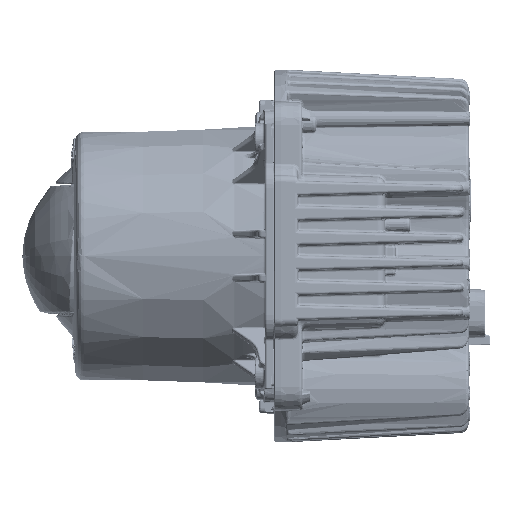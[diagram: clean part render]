
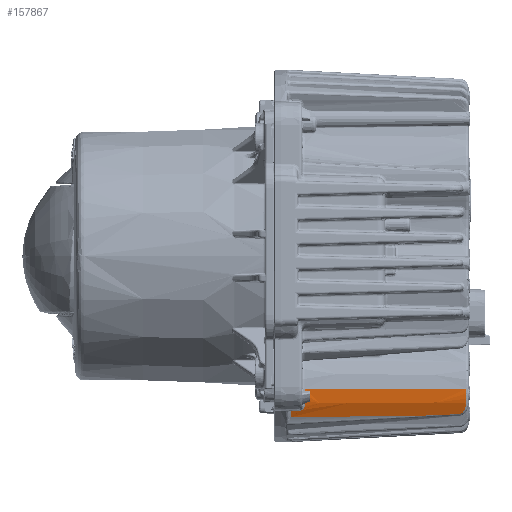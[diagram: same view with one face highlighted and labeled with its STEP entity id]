
A CAD part, front view. The second image highlights one B-rep face of the part: STEP entity #157867.
In plain terms, the highlighted conical face has half-angle 1.5 degrees and reference radius 19 mm.
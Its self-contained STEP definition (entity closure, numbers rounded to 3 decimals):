
#153750=VERTEX_POINT('',#153749) ;
#153815=VERTEX_POINT('',#153814) ;
#154021=VERTEX_POINT('',#154020) ;
#157679=VERTEX_POINT('',#157678) ;
#157817=VERTEX_POINT('',#157816) ;
#157824=VERTEX_POINT('',#157823) ;
#157831=VERTEX_POINT('',#157830) ;
#157838=VERTEX_POINT('',#157837) ;
#157848=VERTEX_POINT('',#157847) ;
#153838=VECTOR('Line Direction',#153837,1.) ;
#157828=VECTOR('Line Direction',#157827,1.) ;
#153837=DIRECTION('Vector Direction',(1.,0.023,0.013)) ;
#157799=DIRECTION('Axis2P3D Direction',(-1.,0.,0.)) ;
#157800=DIRECTION('Axis2P3D XDirection',(0.,-0.866,0.5)) ;
#157820=DIRECTION('Axis2P3D Direction',(1.,0.,0.)) ;
#157827=DIRECTION('Vector Direction',(-1.,-0.026,0.)) ;
#157834=DIRECTION('Axis2P3D Direction',(1.,0.,0.)) ;
#153749=CARTESIAN_POINT('Vertex',(-3.537,-90.818,-236.256)) ;
#153814=CARTESIAN_POINT('Vertex',(-56.028,-92.008,-236.943)) ;
#153836=CARTESIAN_POINT('Line Origine',(-20.036,-91.192,-236.472)) ;
#154011=CARTESIAN_POINT('Control Point',(-56.028,-92.008,-236.943)) ;
#154012=CARTESIAN_POINT('Control Point',(-56.014,-92.139,-236.716)) ;
#154013=CARTESIAN_POINT('Control Point',(-56.,-92.267,-236.486)) ;
#154014=CARTESIAN_POINT('Control Point',(-55.985,-92.391,-236.254)) ;
#154015=CARTESIAN_POINT('Control Point',(-55.956,-92.613,-235.82)) ;
#154016=CARTESIAN_POINT('Control Point',(-55.926,-92.824,-235.379)) ;
#154017=CARTESIAN_POINT('Control Point',(-55.912,-92.918,-235.175)) ;
#154018=CARTESIAN_POINT('Control Point',(-55.897,-93.009,-234.97)) ;
#154019=CARTESIAN_POINT('Control Point',(-55.883,-93.097,-234.763)) ;
#154020=CARTESIAN_POINT('Vertex',(-55.883,-93.097,-234.763)) ;
#157678=CARTESIAN_POINT('Vertex',(5.121,-90.863,-235.712)) ;
#157682=CARTESIAN_POINT('Control Point',(5.121,-90.863,-235.712)) ;
#157683=CARTESIAN_POINT('Control Point',(3.389,-90.856,-235.82)) ;
#157684=CARTESIAN_POINT('Control Point',(1.657,-90.848,-235.929)) ;
#157685=CARTESIAN_POINT('Control Point',(-0.074,-90.839,-236.037)) ;
#157686=CARTESIAN_POINT('Control Point',(-1.806,-90.829,-236.146)) ;
#157687=CARTESIAN_POINT('Control Point',(-3.537,-90.818,-236.256)) ;
#157798=CARTESIAN_POINT('Axis2P3D Location',(9.464,-74.069,-226.586)) ;
#157804=CARTESIAN_POINT('Control Point',(5.121,-90.863,-235.712)) ;
#157805=CARTESIAN_POINT('Control Point',(5.35,-90.864,-235.698)) ;
#157806=CARTESIAN_POINT('Control Point',(5.576,-90.888,-235.641)) ;
#157807=CARTESIAN_POINT('Control Point',(5.783,-90.933,-235.546)) ;
#157808=CARTESIAN_POINT('Control Point',(6.221,-91.065,-235.27)) ;
#157809=CARTESIAN_POINT('Control Point',(6.558,-91.239,-234.902)) ;
#157810=CARTESIAN_POINT('Control Point',(6.725,-91.343,-234.674)) ;
#157811=CARTESIAN_POINT('Control Point',(7.104,-91.621,-234.041)) ;
#157812=CARTESIAN_POINT('Control Point',(7.339,-91.896,-233.342)) ;
#157813=CARTESIAN_POINT('Control Point',(7.438,-92.057,-232.894)) ;
#157814=CARTESIAN_POINT('Control Point',(7.49,-92.207,-232.435)) ;
#157815=CARTESIAN_POINT('Control Point',(7.49,-92.344,-231.97)) ;
#157816=CARTESIAN_POINT('Vertex',(7.49,-92.344,-231.97)) ;
#157819=CARTESIAN_POINT('Axis2P3D Location',(7.49,-74.069,-226.586)) ;
#157823=CARTESIAN_POINT('Vertex',(7.49,-93.12,-226.586)) ;
#157826=CARTESIAN_POINT('Line Origine',(-20.036,-93.841,-226.586)) ;
#157830=CARTESIAN_POINT('Vertex',(-50.862,-94.648,-226.586)) ;
#157833=CARTESIAN_POINT('Axis2P3D Location',(-50.862,-74.069,-226.586)) ;
#157837=CARTESIAN_POINT('Vertex',(-50.862,-93.692,-232.788)) ;
#157841=CARTESIAN_POINT('Control Point',(-52.758,-93.079,-234.596)) ;
#157842=CARTESIAN_POINT('Control Point',(-52.18,-93.076,-234.565)) ;
#157843=CARTESIAN_POINT('Control Point',(-51.614,-93.15,-234.349)) ;
#157844=CARTESIAN_POINT('Control Point',(-51.12,-93.308,-233.948)) ;
#157845=CARTESIAN_POINT('Control Point',(-50.862,-93.508,-233.368)) ;
#157846=CARTESIAN_POINT('Control Point',(-50.862,-93.692,-232.788)) ;
#157847=CARTESIAN_POINT('Vertex',(-52.758,-93.079,-234.596)) ;
#157851=CARTESIAN_POINT('Control Point',(-52.758,-93.079,-234.596)) ;
#157852=CARTESIAN_POINT('Control Point',(-53.799,-93.085,-234.652)) ;
#157853=CARTESIAN_POINT('Control Point',(-54.841,-93.091,-234.708)) ;
#157854=CARTESIAN_POINT('Control Point',(-55.883,-93.097,-234.763)) ;
#157801=AXIS2_PLACEMENT_3D('Cone Axis2P3D',#157798,#157799,#157800) ;
#157821=AXIS2_PLACEMENT_3D('Circle Axis2P3D',#157819,#157820,$) ;
#157835=AXIS2_PLACEMENT_3D('Circle Axis2P3D',#157833,#157834,$) ;
#157822=CIRCLE('generated circle',#157821,19.052) ;
#157836=CIRCLE('generated circle',#157835,20.58) ;
#157802=CONICAL_SURFACE('Cone',#157801,19.,0.026) ;
#153839=LINE('Line',#153836,#153838) ;
#157829=LINE('Line',#157826,#157828) ;
#153840=EDGE_CURVE('',#153815,#153750,#153839,.T.) ;
#154022=EDGE_CURVE('',#153815,#154021,#154010,.T.) ;
#157688=EDGE_CURVE('',#153750,#157679,#157681,.F.) ;
#157818=EDGE_CURVE('',#157679,#157817,#157803,.T.) ;
#157825=EDGE_CURVE('',#157817,#157824,#157822,.F.) ;
#157832=EDGE_CURVE('',#157824,#157831,#157829,.T.) ;
#157839=EDGE_CURVE('',#157838,#157831,#157836,.F.) ;
#157849=EDGE_CURVE('',#157848,#157838,#157840,.T.) ;
#157855=EDGE_CURVE('',#154021,#157848,#157850,.F.) ;
#157857=ORIENTED_EDGE('',*,*,#154022,.F.) ;
#157858=ORIENTED_EDGE('',*,*,#153840,.T.) ;
#157859=ORIENTED_EDGE('',*,*,#157688,.T.) ;
#157860=ORIENTED_EDGE('',*,*,#157818,.T.) ;
#157861=ORIENTED_EDGE('',*,*,#157825,.T.) ;
#157862=ORIENTED_EDGE('',*,*,#157832,.T.) ;
#157863=ORIENTED_EDGE('',*,*,#157839,.F.) ;
#157864=ORIENTED_EDGE('',*,*,#157849,.F.) ;
#157865=ORIENTED_EDGE('',*,*,#157855,.F.) ;
#157856=EDGE_LOOP('',(#157857,#157858,#157859,#157860,#157861,#157862,#157863,#157864,#157865)) ;
#157867=ADVANCED_FACE('015.318-00',(#157866),#157802,.T.) ;
#154010=B_SPLINE_CURVE_WITH_KNOTS('',5,(#154011,#154012,#154013,#154014,#154015,#154016,#154017,#154018,#154019),.UNSPECIFIED.,.F.,.U.,(6,3,6),(6.313,7.939,9.326),.UNIFORM_KNOTS.) ;
#157681=B_SPLINE_CURVE_WITH_KNOTS('',5,(#157682,#157683,#157684,#157685,#157686,#157687),.UNSPECIFIED.,.F.,.U.,(6,6),(24.007,36.281),.UNIFORM_KNOTS.) ;
#157803=B_SPLINE_CURVE_WITH_KNOTS('',5,(#157804,#157805,#157806,#157807,#157808,#157809,#157810,#157811,#157812,#157813,#157814,#157815),.UNSPECIFIED.,.F.,.U.,(6,3,3,6),(1.067,2.628,4.755,8.247),.UNIFORM_KNOTS.) ;
#157840=B_SPLINE_CURVE_WITH_KNOTS('',5,(#157841,#157842,#157843,#157844,#157845,#157846),.UNSPECIFIED.,.F.,.U.,(6,6),(5.042,8.278),.UNIFORM_KNOTS.) ;
#157850=B_SPLINE_CURVE_WITH_KNOTS('',3,(#157851,#157852,#157853,#157854),.UNSPECIFIED.,.F.,.U.,(4,4),(104.605,109.03),.UNIFORM_KNOTS.) ;
#157866=FACE_OUTER_BOUND('',#157856,.T.) ;
